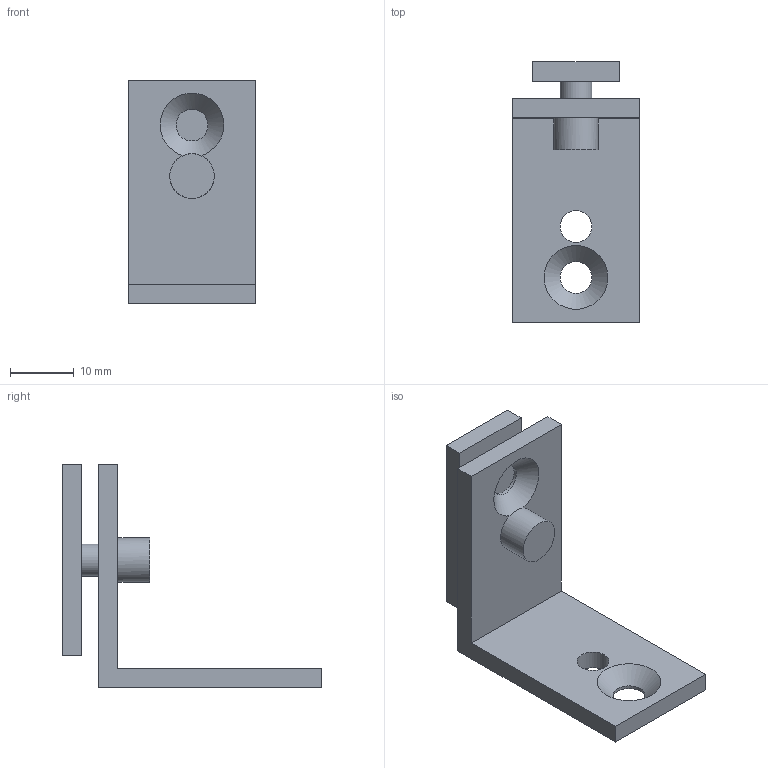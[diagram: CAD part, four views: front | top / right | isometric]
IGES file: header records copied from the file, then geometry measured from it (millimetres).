
Start section: Data from Parasolid IGES Translator 15.0.47, Copyright(c) 2006 Siemens P LM Software. All Rights Reserved.
Global section: file name: 9995930.igs; native system:  By UGS Corp.; preprocessor: XPlus GENERIC/IGES 3.0; author: Noname; organization: Noname; date: 20140122.180256; units: millimetre
Bounding box: 20 x 40.75 x 35 mm (x, y, z)
Surface area: 4389.2 mm2 (no closed solid volume)
Topology: 0 solids, 0 shells, 23 faces, 108 edges, 100 vertices
Faces by surface type: extrusion 16, revolution 7
